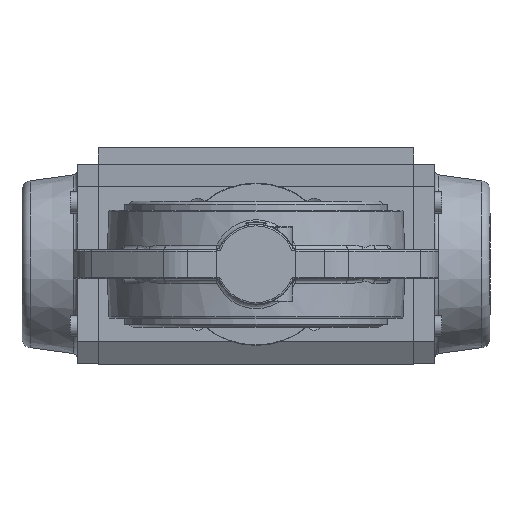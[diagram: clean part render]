
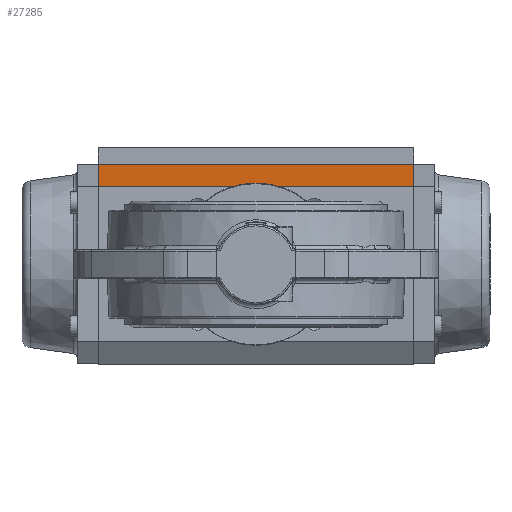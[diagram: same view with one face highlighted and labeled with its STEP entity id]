
A CAD part, front view. The second image highlights one B-rep face of the part: STEP entity #27285.
In plain terms, the highlighted planar face has unit normal (0, -0.255, 0.967) as drawn and (0.967, -0.255, 0) by its records, which use the part's own axes.
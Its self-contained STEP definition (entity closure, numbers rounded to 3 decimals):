
#557 = VECTOR ( 'NONE', #32403, 1000. ) ;
#3203 = CARTESIAN_POINT ( 'NONE',  ( 33., -50., -67. ) ) ;
#4122 = DIRECTION ( 'NONE',  ( 0., 0., 1. ) ) ;
#5870 = DIRECTION ( 'NONE',  ( 0., 0., 1. ) ) ;
#6652 = CARTESIAN_POINT ( 'NONE',  ( 33., -50., -67. ) ) ;
#6756 = ORIENTED_EDGE ( 'NONE', *, *, #10965, .T. ) ;
#7467 = ORIENTED_EDGE ( 'NONE', *, *, #18193, .F. ) ;
#8922 = VECTOR ( 'NONE', #5870, 1000. ) ;
#9606 = CARTESIAN_POINT ( 'NONE',  ( 42.5, -14., 67. ) ) ;
#10965 = EDGE_CURVE ( 'NONE', #35283, #11030, #11663, .T. ) ;
#11030 = VERTEX_POINT ( 'NONE', #20031 ) ;
#11663 = LINE ( 'NONE', #3203, #557 ) ;
#11771 = LINE ( 'NONE', #26998, #32628 ) ;
#17026 = ORIENTED_EDGE ( 'NONE', *, *, #39239, .T. ) ;
#18193 = EDGE_CURVE ( 'NONE', #43944, #36810, #11771, .T. ) ;
#18844 = CARTESIAN_POINT ( 'NONE',  ( 42.5, -14., -67. ) ) ;
#20031 = CARTESIAN_POINT ( 'NONE',  ( 42.5, -14., -67. ) ) ;
#23154 = EDGE_LOOP ( 'NONE', ( #17026, #7467, #26106, #6756 ) ) ;
#23436 = DIRECTION ( 'NONE',  ( 0.967, -0.255, 0. ) ) ;
#26106 = ORIENTED_EDGE ( 'NONE', *, *, #50131, .F. ) ;
#26998 = CARTESIAN_POINT ( 'NONE',  ( 33., -50., 67. ) ) ;
#27174 = DIRECTION ( 'NONE',  ( 0.255, 0.967, 0. ) ) ;
#27285 = ADVANCED_FACE ( 'NONE', ( #44904 ), #44147, .T. ) ;
#30488 = LINE ( 'NONE', #37377, #51473 ) ;
#32355 = LINE ( 'NONE', #18844, #8922 ) ;
#32403 = DIRECTION ( 'NONE',  ( 0.255, 0.967, 0. ) ) ;
#32628 = VECTOR ( 'NONE', #27174, 1000. ) ;
#35283 = VERTEX_POINT ( 'NONE', #6652 ) ;
#36810 = VERTEX_POINT ( 'NONE', #9606 ) ;
#37377 = CARTESIAN_POINT ( 'NONE',  ( 33., -50., -67. ) ) ;
#37845 = CARTESIAN_POINT ( 'NONE',  ( 33., -50., 67. ) ) ;
#39239 = EDGE_CURVE ( 'NONE', #11030, #36810, #32355, .T. ) ;
#43944 = VERTEX_POINT ( 'NONE', #37845 ) ;
#44147 = PLANE ( 'NONE',  #50047 ) ;
#44904 = FACE_OUTER_BOUND ( 'NONE', #23154, .T. ) ;
#48521 = CARTESIAN_POINT ( 'NONE',  ( 33., -50., -67. ) ) ;
#50047 = AXIS2_PLACEMENT_3D ( 'NONE', #48521, #23436, #52704 ) ;
#50131 = EDGE_CURVE ( 'NONE', #35283, #43944, #30488, .T. ) ;
#51473 = VECTOR ( 'NONE', #4122, 1000. ) ;
#52704 = DIRECTION ( 'NONE',  ( 0.255, 0.967, 0. ) ) ;
